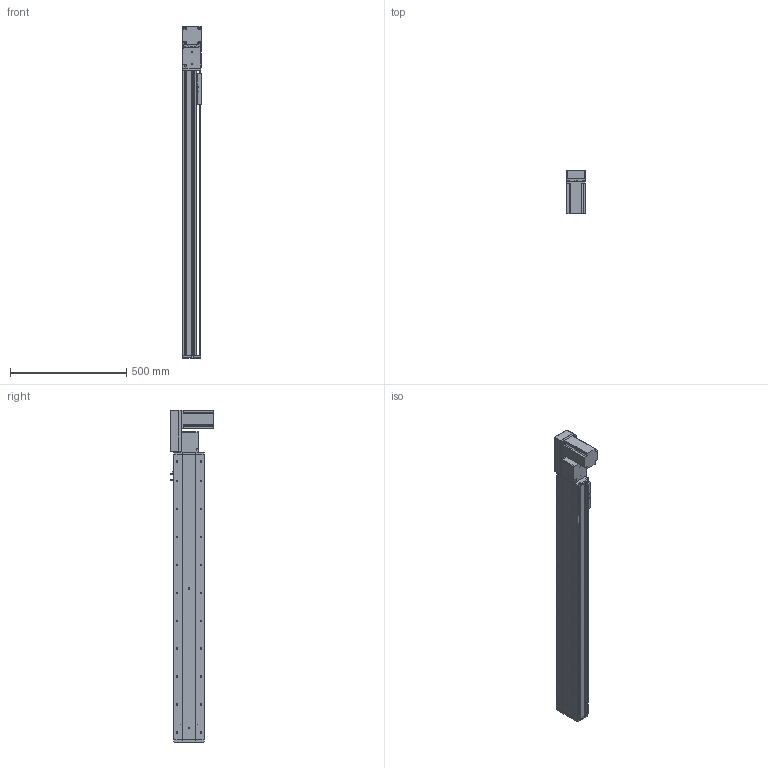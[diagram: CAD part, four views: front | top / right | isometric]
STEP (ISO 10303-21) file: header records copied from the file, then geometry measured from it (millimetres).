
FILE_DESCRIPTION (( 'STEP AP214' ), '1' );
FILE_NAME ('KSD130B-S1000-MRB-CM.STEP', '2019-09-21T06:59:45', ( '微软用户' ), ( '微软中国' ), 'SwSTEP 2.0', 'SolidWorks 2014', '' );
FILE_SCHEMA (( 'AUTOMOTIVE_DESIGN' ));
Length unit declared in the file: millimetre
Products named in the file (12): 台达ECMA－C20807AS伺服电机; 130宽模组保护罩上下左右折-同步带; 130宽模组马达安装板连板左右折同步带; U倰嫖萇EEㄜSX672; 覜茼え100遵圉猾敕; 130宽盖板半封闭同步带-1000行程; 130宽马达安装板同步带右-改镜向_默认<按加工>; 130宽马达安装板同步带半封闭; 130宽同步带安装座半封闭; 130宽端盖同步带半封闭; 130宽底板半封闭同步带-1000行程; KSD130B-S1000-MRB-CM
Assembly tree (12 placements, depth 2):
  KSD130B-S1000-MRB-CM
    130宽底板半封闭同步带-1000行程
    130宽端盖同步带半封闭
    130宽同步带安装座半封闭
    130宽马达安装板同步带半封闭
    130宽马达安装板同步带右-改镜向_默认<按加工>
    130宽盖板半封闭同步带-1000行程
    覜茼え100遵圉猾敕
    U倰嫖萇EEㄜSX672  x2
    130宽模组马达安装板连板左右折同步带
    130宽模组保护罩上下左右折-同步带
    台达ECMA－C20807AS伺服电机
Bounding box: 81 x 184.8 x 1427 mm (x, y, z)
Volume: 4986071.1 mm3; surface area: 1360123.3 mm2
Topology: 13 solids, 13 shells, 1439 faces, 4119 edges, 2623 vertices
Faces by surface type: cylinder 708, plane 556, cone 175
Entity records: 50739 total; most frequent: CARTESIAN_POINT 9451, DIRECTION 7713, ORIENTED_EDGE 7438, EDGE_CURVE 3719, AXIS2_PLACEMENT_3D 2813, VERTEX_POINT 2435, VECTOR 2087, LINE 2087
